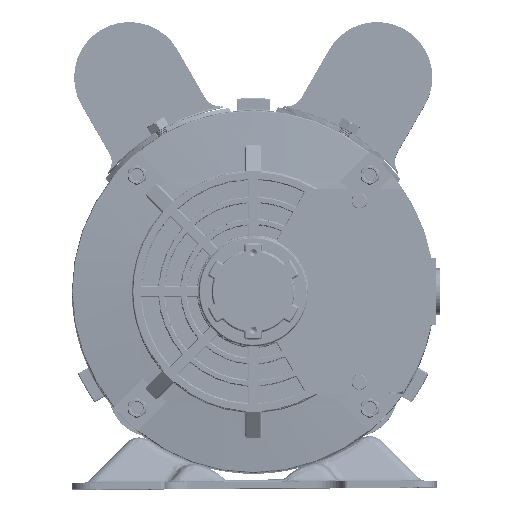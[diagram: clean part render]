
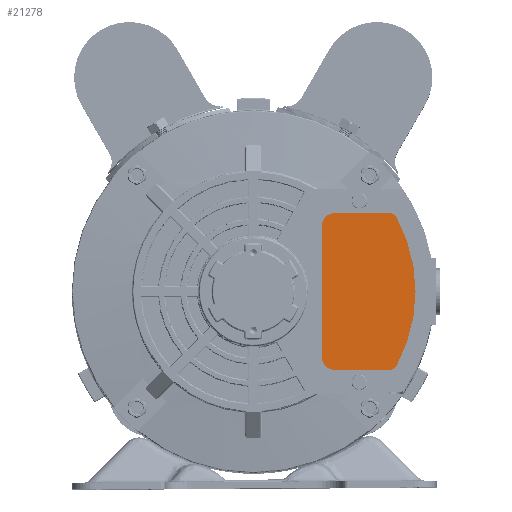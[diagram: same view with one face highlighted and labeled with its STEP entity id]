
A CAD part, top view. The second image highlights one B-rep face of the part: STEP entity #21278.
In plain terms, the highlighted planar face has unit normal (0, 0, 1).
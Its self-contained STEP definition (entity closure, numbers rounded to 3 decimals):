
#226 = VERTEX_POINT ( 'NONE', #68297 ) ;
#5564 = EDGE_CURVE ( 'NONE', #26985, #74886, #117408, .T. ) ;
#6158 = DIRECTION ( 'NONE',  ( 1., 0., 0. ) ) ;
#6160 = CARTESIAN_POINT ( 'NONE',  ( 11.507, -10.831, 490.625 ) ) ;
#10616 = VECTOR ( 'NONE', #21441, 1000. ) ;
#15606 = CARTESIAN_POINT ( 'NONE',  ( 41.885, 60.169, 490.625 ) ) ;
#17295 = AXIS2_PLACEMENT_3D ( 'NONE', #73884, #128218, #6158 ) ;
#17977 = ORIENTED_EDGE ( 'NONE', *, *, #165082, .T. ) ;
#19520 = PLANE ( 'NONE',  #17295 ) ;
#21278 = ADVANCED_FACE ( 'NONE', ( #141624 ), #19520, .T. ) ;
#21441 = DIRECTION ( 'NONE',  ( -1., 0., 0. ) ) ;
#21515 = LINE ( 'NONE', #75905, #52676 ) ;
#26985 = VERTEX_POINT ( 'NONE', #107691 ) ;
#27770 = EDGE_CURVE ( 'NONE', #226, #136758, #128220, .T. ) ;
#27899 = DIRECTION ( 'NONE',  ( 0., 0., 1. ) ) ;
#34503 = DIRECTION ( 'NONE',  ( 0., -1., 0. ) ) ;
#36554 = DIRECTION ( 'NONE',  ( 0., 0., 1. ) ) ;
#37784 = CARTESIAN_POINT ( 'NONE',  ( 45.4, 58.078, 490.625 ) ) ;
#42591 = DIRECTION ( 'NONE',  ( 0., -1., 0. ) ) ;
#45531 = EDGE_CURVE ( 'NONE', #104738, #226, #133610, .T. ) ;
#52676 = VECTOR ( 'NONE', #130248, 1000. ) ;
#60503 = DIRECTION ( 'NONE',  ( 1., 0., 0. ) ) ;
#62844 = ORIENTED_EDGE ( 'NONE', *, *, #166046, .T. ) ;
#63065 = VERTEX_POINT ( 'NONE', #15606 ) ;
#64976 = ORIENTED_EDGE ( 'NONE', *, *, #5564, .T. ) ;
#65270 = EDGE_CURVE ( 'NONE', #136758, #133275, #98859, .T. ) ;
#68297 = CARTESIAN_POINT ( 'NONE',  ( 17.507, -10.831, 490.625 ) ) ;
#68905 = EDGE_CURVE ( 'NONE', #133275, #128311, #157401, .T. ) ;
#68997 = CARTESIAN_POINT ( 'NONE',  ( 41.885, -10.831, 490.625 ) ) ;
#73884 = CARTESIAN_POINT ( 'NONE',  ( -16.113, 24.669, 490.625 ) ) ;
#74886 = VERTEX_POINT ( 'NONE', #157621 ) ;
#75905 = CARTESIAN_POINT ( 'NONE',  ( 11.507, 60.169, 490.625 ) ) ;
#78057 = ORIENTED_EDGE ( 'NONE', *, *, #65270, .T. ) ;
#80601 = AXIS2_PLACEMENT_3D ( 'NONE', #176084, #94911, #149311 ) ;
#82302 = DIRECTION ( 'NONE',  ( 0., -1., 0. ) ) ;
#88290 = ORIENTED_EDGE ( 'NONE', *, *, #68905, .T. ) ;
#89186 = LINE ( 'NONE', #143566, #10616 ) ;
#90923 = DIRECTION ( 'NONE',  ( 0., -1., 0. ) ) ;
#94911 = DIRECTION ( 'NONE',  ( 0., 0., 1. ) ) ;
#98859 = CIRCLE ( 'NONE', #121639, 4. ) ;
#102239 = CARTESIAN_POINT ( 'NONE',  ( 17.507, -4.831, 490.625 ) ) ;
#103654 = CIRCLE ( 'NONE', #126433, 4. ) ;
#104738 = VERTEX_POINT ( 'NONE', #152451 ) ;
#107691 = CARTESIAN_POINT ( 'NONE',  ( 17.507, 60.169, 490.625 ) ) ;
#110321 = CARTESIAN_POINT ( 'NONE',  ( 41.885, -6.831, 490.625 ) ) ;
#113439 = ORIENTED_EDGE ( 'NONE', *, *, #27770, .T. ) ;
#117408 = CIRCLE ( 'NONE', #140212, 6. ) ;
#121639 = AXIS2_PLACEMENT_3D ( 'NONE', #110321, #164741, #42591 ) ;
#123010 = VECTOR ( 'NONE', #60503, 1000. ) ;
#126433 = AXIS2_PLACEMENT_3D ( 'NONE', #158671, #36554, #90923 ) ;
#128218 = DIRECTION ( 'NONE',  ( 0., 0., 1. ) ) ;
#128220 = LINE ( 'NONE', #6160, #123010 ) ;
#128311 = VERTEX_POINT ( 'NONE', #37784 ) ;
#129813 = ORIENTED_EDGE ( 'NONE', *, *, #171161, .T. ) ;
#130248 = DIRECTION ( 'NONE',  ( 0., -1., 0. ) ) ;
#133275 = VERTEX_POINT ( 'NONE', #164984 ) ;
#133610 = CIRCLE ( 'NONE', #156359, 6. ) ;
#136758 = VERTEX_POINT ( 'NONE', #68997 ) ;
#140212 = AXIS2_PLACEMENT_3D ( 'NONE', #150008, #27899, #82302 ) ;
#141624 = FACE_OUTER_BOUND ( 'NONE', #167637, .T. ) ;
#143566 = CARTESIAN_POINT ( 'NONE',  ( 44.217, 60.169, 490.625 ) ) ;
#146197 = ORIENTED_EDGE ( 'NONE', *, *, #45531, .T. ) ;
#149311 = DIRECTION ( 'NONE',  ( 0., -1., 0. ) ) ;
#150008 = CARTESIAN_POINT ( 'NONE',  ( 17.507, 54.169, 490.625 ) ) ;
#152451 = CARTESIAN_POINT ( 'NONE',  ( 11.507, -4.831, 490.625 ) ) ;
#156359 = AXIS2_PLACEMENT_3D ( 'NONE', #102239, #156630, #34503 ) ;
#156630 = DIRECTION ( 'NONE',  ( 0., 0., 1. ) ) ;
#157401 = CIRCLE ( 'NONE', #80601, 70. ) ;
#157621 = CARTESIAN_POINT ( 'NONE',  ( 11.507, 54.169, 490.625 ) ) ;
#158671 = CARTESIAN_POINT ( 'NONE',  ( 41.885, 56.169, 490.625 ) ) ;
#164741 = DIRECTION ( 'NONE',  ( 0., 0., 1. ) ) ;
#164984 = CARTESIAN_POINT ( 'NONE',  ( 45.4, -8.74, 490.625 ) ) ;
#165082 = EDGE_CURVE ( 'NONE', #128311, #63065, #103654, .T. ) ;
#166046 = EDGE_CURVE ( 'NONE', #74886, #104738, #21515, .T. ) ;
#167637 = EDGE_LOOP ( 'NONE', ( #113439, #78057, #88290, #17977, #129813, #64976, #62844, #146197 ) ) ;
#171161 = EDGE_CURVE ( 'NONE', #63065, #26985, #89186, .T. ) ;
#176084 = CARTESIAN_POINT ( 'NONE',  ( -16.113, 24.669, 490.625 ) ) ;
